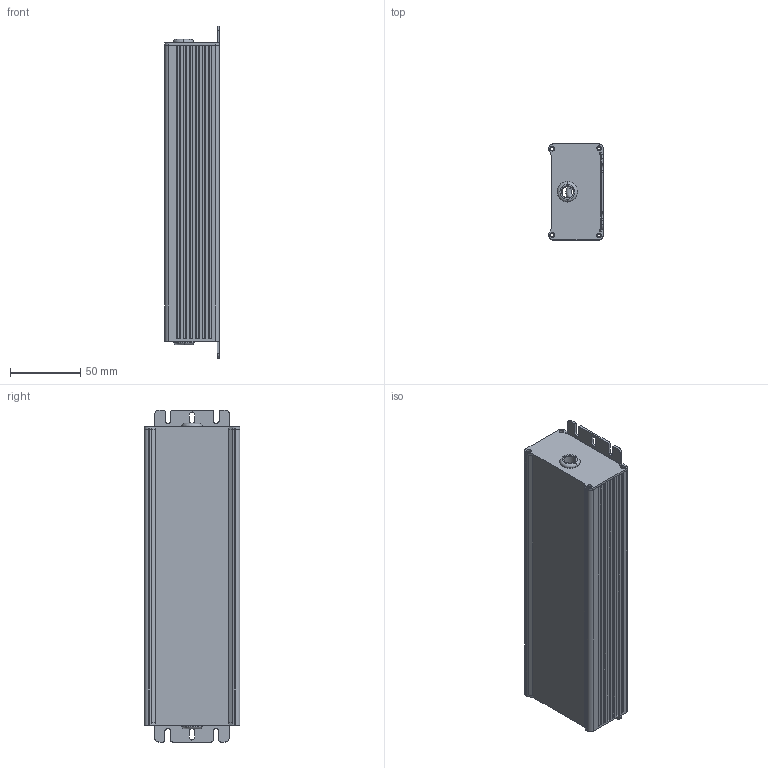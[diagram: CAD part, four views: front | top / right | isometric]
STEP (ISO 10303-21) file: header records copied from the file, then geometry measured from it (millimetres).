
FILE_DESCRIPTION(('OneSpaceDesigner STEP Export'),'2;1');
FILE_NAME('HVG-100.stp','2012-07-16T 9:32:27',(''),(''),'OneSpace Designer STEP processor for AP214 (Solid Model)','OneSpace Designer 13.20 11-May-2005 (C) CoCreate Software GmbH','');
FILE_SCHEMA(('AUTOMOTIVE_DESIGN { 1 0 10303 214 1 1 1 1 }'));
Length unit declared in the file: millimetre
Products named in the file (3): CASE; HLG-120-A; HLG-100-A.stp
Assembly tree (2 placements, depth 3):
  HLG-100-A.stp
    HLG-120-A
      CASE
Bounding box: 38.74 x 68.05 x 236 mm (x, y, z)
Volume: 102630.6 mm3; surface area: 107922.9 mm2
Topology: 1 solids, 1 shells, 250 faces, 731 edges, 471 vertices
Faces by surface type: plane 152, cylinder 89, torus 9
Full cylindrical faces by diameter (mm): 14.5 x1
Entity records: 7900 total; most frequent: CARTESIAN_POINT 1650, ORIENTED_EDGE 1446, DIRECTION 1141, EDGE_CURVE 723, VECTOR 473, LINE 473, VERTEX_POINT 468, AXIS2_PLACEMENT_3D 334
